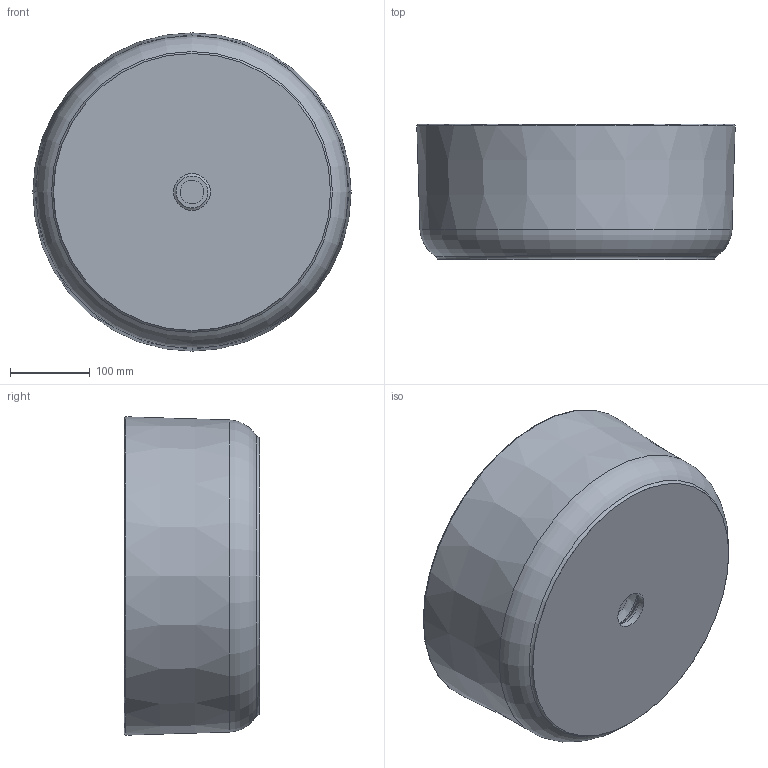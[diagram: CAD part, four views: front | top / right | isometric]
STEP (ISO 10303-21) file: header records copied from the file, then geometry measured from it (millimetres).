
FILE_DESCRIPTION (( 'STEP AP203' ), '1' );
FILE_NAME ('AULA04017000.STEP', '2025-04-15T14:52:36', ( '' ), ( '' ), 'SwSTEP 2.0', 'SolidWorks 2024', '' );
FILE_SCHEMA (( 'CONFIG_CONTROL_DESIGN' ));
Length unit declared in the file: millimetre
Products named in the file (3): AULA04017000; PILETTA CLIKCLAK
Assembly tree (2 placements, depth 2):
  AULA04017000
    AULA04017000
    PILETTA CLIKCLAK
Bounding box: 399.88 x 170 x 399.88 mm (x, y, z)
Volume: 7835393.1 mm3; surface area: 566702.3 mm2
Topology: 2 solids, 2 shells, 26 faces, 52 edges, 32 vertices
Faces by surface type: torus 11, plane 6, cone 5, cylinder 4
Full cylindrical faces by diameter (mm): 30 x1, 46 x1, 72 x1, 348 x1
Entity records: 823 total; most frequent: DIRECTION 112, CARTESIAN_POINT 81, AXIS2_PLACEMENT_3D 56, ORIENTED_EDGE 50, EDGE_LOOP 50, FACE_OUTER_BOUND 41, PERSON_AND_ORGANIZATION 26, ADVANCED_FACE 26
